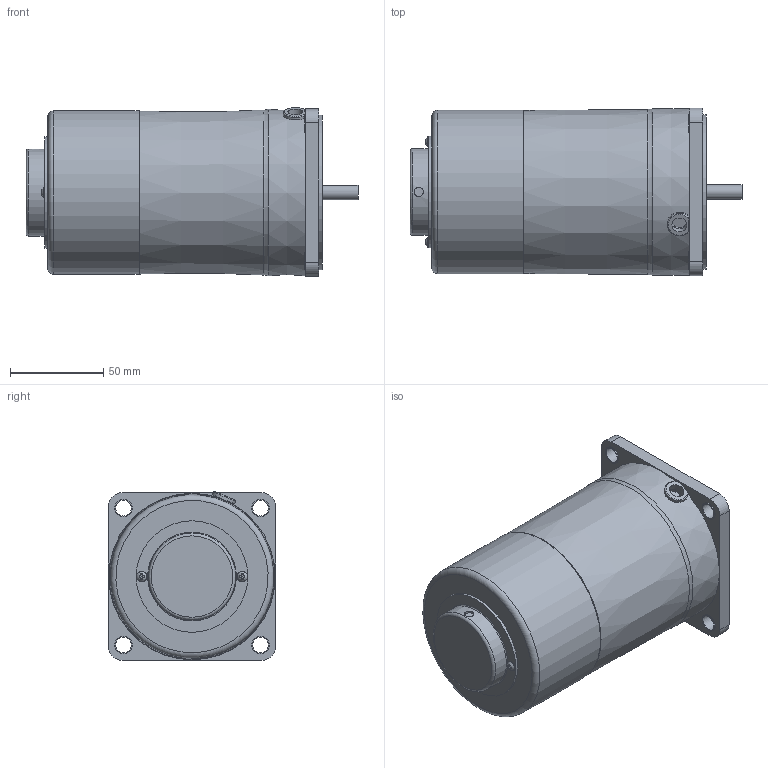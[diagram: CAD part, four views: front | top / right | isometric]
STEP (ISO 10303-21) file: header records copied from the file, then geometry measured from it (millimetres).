
FILE_DESCRIPTION(/* description */ (''),/* implementation_level */ '2;1');
FILE_NAME(/* name */ 'Y:\제품연구개발\3. 도면\3. 고객배포용\3D_홈페이지용\01-1 Standard AC SG Series\05-3 SPEED CONTROL ELECTROMAGNETIC BRAKE MOTOR(ES)\SG9R40_-ES12\SG9R40G-ES.stp',/* time_stamp */ '2023-11-30T13:54:09+09:00',/* author */ ('shyi1037'),/* organization */ (''),/* preprocessor_version */ 'ST-DEVELOPER v18.1',/* originating_system */ 'Autodesk Inventor 2022',/* authorisation */ '');
FILE_SCHEMA (('AUTOMOTIVE_DESIGN { 1 0 10303 214 3 1 1 }'));
Length unit declared in the file: millimetre
Products named in the file (1): SG9R40G-ES
Bounding box: 178.3 x 90 x 90.6 mm (x, y, z)
Volume: 915337 mm3; surface area: 63587.4 mm2
Topology: 1 solids, 6 shells, 140 faces, 326 edges, 216 vertices
Faces by surface type: plane 83, cylinder 43, torus 10, cone 2, bspline 2
Full cylindrical faces by diameter (mm): 3 x2, 3.5 x2, 5 x1, 5.6 x2, 7.62 x1, 8 x1, 8.5 x4, 9.5 x4, 10 x1, 40 x1, 44.7 x1, 46.7 x1, 47.7 x1, 59.9 x1, 83 x1, 86 x1, 87.8 x1
Entity records: 4372 total; most frequent: CARTESIAN_POINT 1015, DIRECTION 682, ORIENTED_EDGE 652, EDGE_CURVE 326, AXIS2_PLACEMENT_3D 254, VERTEX_POINT 216, LINE 174, VECTOR 174
